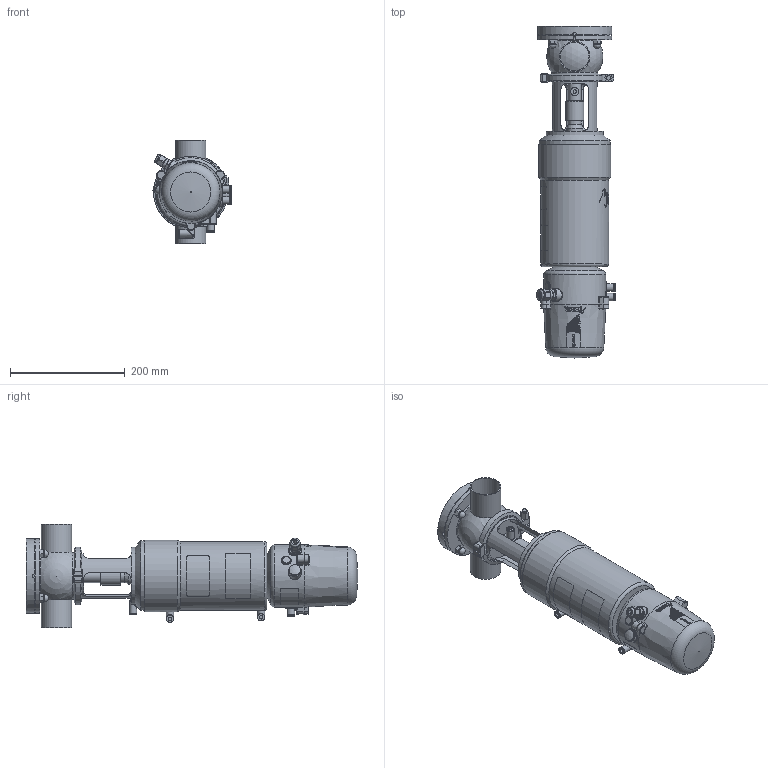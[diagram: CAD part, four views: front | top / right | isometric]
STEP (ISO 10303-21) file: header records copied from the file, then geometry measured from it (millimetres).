
FILE_DESCRIPTION (( 'STEP AP214' ), '1' );
FILE_NAME ('INNOVA T T W DIN 050 & C-TOP S_10.252.16.0008.STEP', '2024-08-20T12:20:58', ( '' ), ( '' ), 'SwSTEP 2.0', 'SolidWorks 2023', '' );
FILE_SCHEMA (( 'AUTOMOTIVE_DESIGN' ));
Length unit declared in the file: millimetre
Products named in the file (7): 10.240.15.0007_DIN 050; 10.426.15.0001_C-TOP S - 3 EV; INNOVA T T W DIN 050 & C-TOP S_10.252.16.0008; 10.250.15.0002_Type T T1; 10.248.15.0003_DIN 050 _ OD 2"; 10.240.15.0001_DN 050; 10.252.15.0001_DIN 050
Assembly tree (6 placements, depth 2):
  INNOVA T T W DIN 050 & C-TOP S_10.252.16.0008
    10.240.15.0007_DIN 050
    10.248.15.0003_DIN 050 _ OD 2"
    10.252.15.0001_DIN 050
    10.250.15.0002_Type T T1
    10.240.15.0001_DN 050
    10.426.15.0001_C-TOP S - 3 EV
Bounding box: 137.63 x 579.33 x 180 mm (x, y, z)
Volume: 5006327.4 mm3; surface area: 395567.3 mm2
Topology: 6 solids, 6 shells, 1203 faces, 2902 edges, 1930 vertices
Faces by surface type: plane 418, cylinder 382, cone 196, bspline 163, torus 33, sphere 11
Full cylindrical faces by diameter (mm): 0.371 x17, 0.512 x16, 0.658 x16, 0.795 x16, 0.94 x15, 1.098 x15, 1.241 x13, 1.382 x13, 1.523 x11, 1.669 x10, 2.201 x1, 4.2 x2, 5 x1, 5.5 x2, 6 x5, 6.15 x3, 8 x3, 10 x1, 10.5 x3, 11 x4, 12 x1, 12.5 x13, 13 x6, 13.5 x2, 14 x2, 17 x3, 20 x2, 22 x2, 23 x2, 28 x1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
Entity records: 60697 total; most frequent: CARTESIAN_POINT 28339, ORIENTED_EDGE 4902, DIRECTION 4035, EDGE_CURVE 2451, VERTEX_POINT 1743, EDGE_LOOP 1696, AXIS2_PLACEMENT_3D 1632, FACE_OUTER_BOUND 1435
